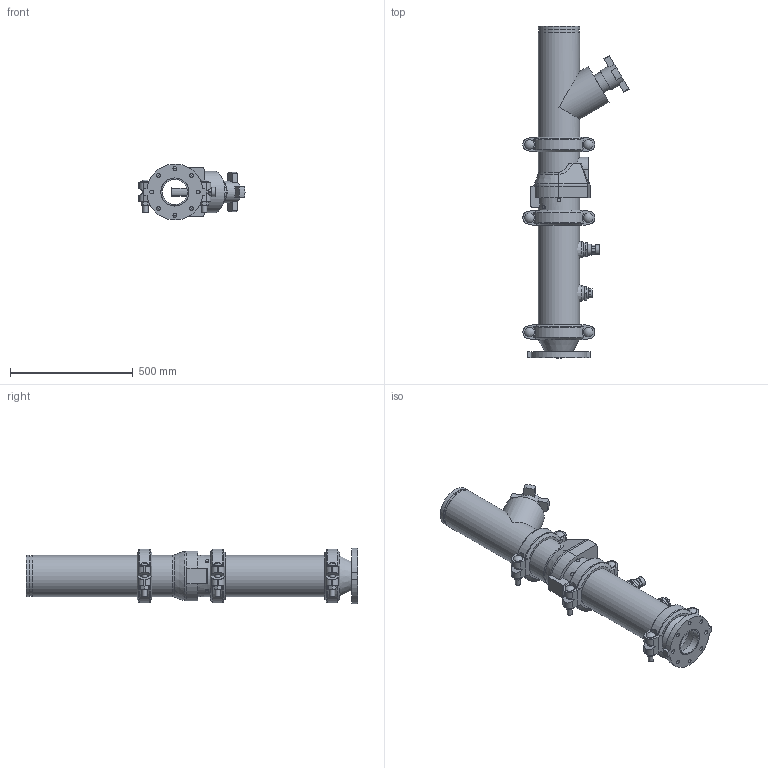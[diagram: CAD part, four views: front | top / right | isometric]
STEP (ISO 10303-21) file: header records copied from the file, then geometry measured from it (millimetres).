
FILE_DESCRIPTION(/* description */ ('VIC DVI PUMP DROP VERT S/383 (OGSxFLG) (S/924-0.75)','CAx-IF Rec.Pracs.---Representation and Presentation of Product Manufacturing Information (PMI)---4.0---2014-10-13'),/* implementation_level */ '2;1');
FILE_NAME(/* name */ 'C:\Users\Public\Documents\Victaulic.Temp\A849\Victaulic_IPS_Vertical DVI_CL 150_Series 383 (OGSxFLG)_924 (0.75)_06.0x04.0 (150x100).stp',/* time_stamp */ '2022-07-25T11:40:33+02:00',/* author */ ('Vjadhav'),/* organization */ ('Victaulic'),/* preprocessor_version */ 'ST-DEVELOPER v18',/* originating_system */ 'Autodesk Inventor 2020',/* authorisation */ '');
FILE_SCHEMA (('AP242_MANAGED_MODEL_BASED_3D_ENGINEERING_MIM_LF { 1 0 10303 442 1 1 4 }'));
Length unit declared in the file: inch
Products named in the file (9): 383_924 (0.75)-06.0x04.0; 741-04.0; 050-06.0x04.0; Pipe-06.0x04.0; 177N-06.0; 789-06.0; 779-06.0; 924-04.0x0.75; 923-04.0x0.75
Assembly tree (10 placements, depth 2):
  383_924 (0.75)-06.0x04.0
    741-04.0
    050-06.0x04.0
    177N-06.0  x3
    Pipe-06.0x04.0
    789-06.0
    779-06.0
    924-04.0x0.75
    923-04.0x0.75
Bounding box: 432.05 x 1352.55 x 227.76 mm (x, y, z)
Volume: 14408127.4 mm3; surface area: 2177866.7 mm2
Topology: 10 solids, 10 shells, 534 faces, 1415 edges, 950 vertices
Faces by surface type: plane 310, cylinder 179, cone 19, torus 18, sphere 6, bspline 2
Full cylindrical faces by diameter (mm): 13.716 x4, 15.875 x8, 21.209 x6, 26.67 x2, 37.694 x6, 38.608 x1, 45.974 x4, 55.626 x2, 79.375 x1, 88.9 x1, 102.26 x1, 110.084 x1, 114.3 x3, 154.051 x4, 155.575 x3, 163.957 x7, 168.275 x19
Entity records: 12228 total; most frequent: CARTESIAN_POINT 2506, DIRECTION 2010, ORIENTED_EDGE 1810, EDGE_CURVE 905, AXIS2_PLACEMENT_3D 770, VERTEX_POINT 614, LINE 470, VECTOR 470
